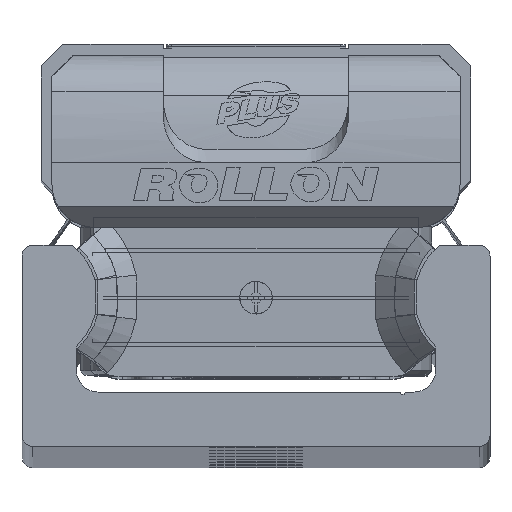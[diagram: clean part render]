
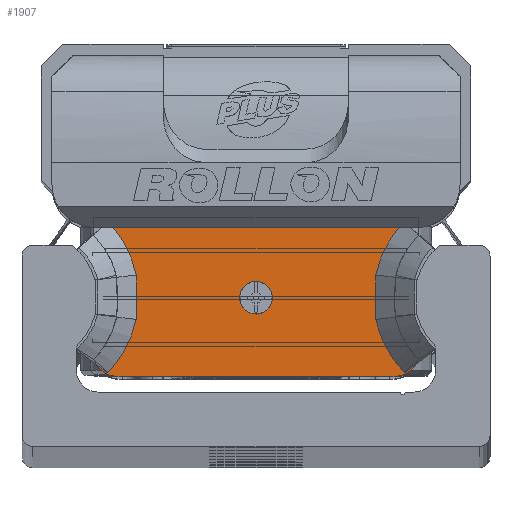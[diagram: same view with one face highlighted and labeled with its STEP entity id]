
A CAD part, top view. The second image highlights one B-rep face of the part: STEP entity #1907.
In plain terms, the highlighted planar face has unit normal (0, 0, 1) as drawn and (0, 0, -1) by its records, which use the part's own axes.
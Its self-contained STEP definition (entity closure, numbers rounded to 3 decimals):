
#1907 = ADVANCED_FACE( '', ( #4002, #4003 ), #4004, .F. );
#4002 = FACE_BOUND( '', #6351, .T. );
#4003 = FACE_OUTER_BOUND( '', #6352, .T. );
#4004 = PLANE( '', #6353 );
#6351 = EDGE_LOOP( '', ( #11493 ) );
#6352 = EDGE_LOOP( '', ( #11494, #11495, #11496, #11497, #11498, #11499, #11500, #11501, #11502, #11503, #11504, #11505 ) );
#6353 = AXIS2_PLACEMENT_3D( '', #11506, #11507, #11508 );
#11493 = ORIENTED_EDGE( '', *, *, #12699, .T. );
#11494 = ORIENTED_EDGE( '', *, *, #14443, .T. );
#11495 = ORIENTED_EDGE( '', *, *, #13220, .F. );
#11496 = ORIENTED_EDGE( '', *, *, #14617, .T. );
#11497 = ORIENTED_EDGE( '', *, *, #12694, .F. );
#11498 = ORIENTED_EDGE( '', *, *, #14334, .T. );
#11499 = ORIENTED_EDGE( '', *, *, #13501, .T. );
#11500 = ORIENTED_EDGE( '', *, *, #14018, .T. );
#11501 = ORIENTED_EDGE( '', *, *, #14618, .T. );
#11502 = ORIENTED_EDGE( '', *, *, #14474, .T. );
#11503 = ORIENTED_EDGE( '', *, *, #13711, .T. );
#11504 = ORIENTED_EDGE( '', *, *, #14619, .T. );
#11505 = ORIENTED_EDGE( '', *, *, #14435, .T. );
#11506 = CARTESIAN_POINT( '', ( 14.9, 7.35, -13.25 ) );
#11507 = DIRECTION( '', ( 0., 0., 1. ) );
#11508 = DIRECTION( '', ( 1., 0., 0. ) );
#12694 = EDGE_CURVE( '', #15051, #15052, #15053, .T. );
#12699 = EDGE_CURVE( '', #15060, #15060, #15061, .T. );
#13220 = EDGE_CURVE( '', #15952, #15133, #15954, .T. );
#13501 = EDGE_CURVE( '', #16400, #16398, #16401, .T. );
#13711 = EDGE_CURVE( '', #16710, #16716, #16718, .T. );
#14018 = EDGE_CURVE( '', #16398, #17169, #17171, .T. );
#14334 = EDGE_CURVE( '', #15051, #16400, #17587, .T. );
#14435 = EDGE_CURVE( '', #17721, #17719, #17722, .T. );
#14443 = EDGE_CURVE( '', #17719, #15133, #17731, .T. );
#14474 = EDGE_CURVE( '', #17770, #16710, #17771, .T. );
#14617 = EDGE_CURVE( '', #15952, #15052, #17940, .T. );
#14618 = EDGE_CURVE( '', #17169, #17770, #17941, .T. );
#14619 = EDGE_CURVE( '', #16716, #17721, #17942, .T. );
#15051 = VERTEX_POINT( '', #18493 );
#15052 = VERTEX_POINT( '', #18494 );
#15053 = CIRCLE( '', #18495, 2.5 );
#15060 = VERTEX_POINT( '', #18504 );
#15061 = CIRCLE( '', #18505, 1.5 );
#15133 = VERTEX_POINT( '', #18596 );
#15952 = VERTEX_POINT( '', #19795 );
#15954 = CIRCLE( '', #19798, 2.5 );
#16398 = VERTEX_POINT( '', #20428 );
#16400 = VERTEX_POINT( '', #20431 );
#16401 = B_SPLINE_CURVE_WITH_KNOTS( '', 2, ( #20432, #20433, #20434, #20435, #20436 ), .UNSPECIFIED., .F., .F., ( 3, 2, 3 ), ( 0., 0.5, 1. ), .UNSPECIFIED. );
#16710 = VERTEX_POINT( '', #20832 );
#16716 = VERTEX_POINT( '', #20845 );
#16718 = B_SPLINE_CURVE_WITH_KNOTS( '', 2, ( #20848, #20849, #20850, #20851, #20852 ), .UNSPECIFIED., .F., .F., ( 3, 2, 3 ), ( 0.133, 0.5, 1. ), .UNSPECIFIED. );
#17169 = VERTEX_POINT( '', #21465 );
#17171 = B_SPLINE_CURVE_WITH_KNOTS( '', 2, ( #21468, #21469, #21470 ), .UNSPECIFIED., .F., .F., ( 3, 3 ), ( 0., 1. ), .UNSPECIFIED. );
#17587 = B_SPLINE_CURVE_WITH_KNOTS( '', 1, ( #22075, #22076 ), .UNSPECIFIED., .F., .F., ( 2, 2 ), ( 0., 1. ), .UNSPECIFIED. );
#17719 = VERTEX_POINT( '', #22254 );
#17721 = VERTEX_POINT( '', #22257 );
#17722 = B_SPLINE_CURVE_WITH_KNOTS( '', 2, ( #22258, #22259, #22260, #22261, #22262 ), .UNSPECIFIED., .F., .F., ( 3, 2, 3 ), ( 0., 0.5, 1. ), .UNSPECIFIED. );
#17731 = B_SPLINE_CURVE_WITH_KNOTS( '', 1, ( #22276, #22277 ), .UNSPECIFIED., .F., .F., ( 2, 2 ), ( 0., 1. ), .UNSPECIFIED. );
#17770 = VERTEX_POINT( '', #22334 );
#17771 = LINE( '', #22335, #22336 );
#17940 = LINE( '', #22599, #22600 );
#17941 = B_SPLINE_CURVE_WITH_KNOTS( '', 2, ( #22601, #22602, #22603, #22604, #22605 ), .UNSPECIFIED., .F., .F., ( 3, 2, 3 ), ( 0., 0.5, 0.868 ), .UNSPECIFIED. );
#17942 = B_SPLINE_CURVE_WITH_KNOTS( '', 2, ( #22606, #22607, #22608 ), .UNSPECIFIED., .F., .F., ( 3, 3 ), ( 0., 1. ), .UNSPECIFIED. );
#18493 = CARTESIAN_POINT( '', ( -14.904, -5.718, -13.25 ) );
#18494 = CARTESIAN_POINT( '', ( -12.58, -7.3, -13.25 ) );
#18495 = AXIS2_PLACEMENT_3D( '', #23011, #23012, #23013 );
#18504 = CARTESIAN_POINT( '', ( 1.5, -0.05, -13.25 ) );
#18505 = AXIS2_PLACEMENT_3D( '', #23019, #23020, #23021 );
#18596 = CARTESIAN_POINT( '', ( 14.906, -5.717, -13.25 ) );
#19795 = CARTESIAN_POINT( '', ( 12.58, -7.3, -13.25 ) );
#19798 = AXIS2_PLACEMENT_3D( '', #23735, #23736, #23737 );
#20428 = CARTESIAN_POINT( '', ( -11.012, -2.045, -13.25 ) );
#20431 = CARTESIAN_POINT( '', ( -13.628, -6.965, -13.25 ) );
#20432 = CARTESIAN_POINT( '', ( -13.628, -6.965, -13.25 ) );
#20433 = CARTESIAN_POINT( '', ( -12.638, -5.946, -13.25 ) );
#20434 = CARTESIAN_POINT( '', ( -11.97, -4.691, -13.25 ) );
#20435 = CARTESIAN_POINT( '', ( -11.303, -3.437, -13.25 ) );
#20436 = CARTESIAN_POINT( '', ( -11.012, -2.045, -13.25 ) );
#20832 = CARTESIAN_POINT( '', ( 13.12, 6.4, -13.25 ) );
#20845 = CARTESIAN_POINT( '', ( 11.012, 2.045, -13.25 ) );
#20848 = CARTESIAN_POINT( '', ( 13.119, 6.4, -13.25 ) );
#20849 = CARTESIAN_POINT( '', ( 12.459, 5.608, -13.25 ) );
#20850 = CARTESIAN_POINT( '', ( 11.968, 4.684, -13.25 ) );
#20851 = CARTESIAN_POINT( '', ( 11.301, 3.427, -13.25 ) );
#20852 = CARTESIAN_POINT( '', ( 11.012, 2.045, -13.25 ) );
#21465 = CARTESIAN_POINT( '', ( -11.012, 2.045, -13.25 ) );
#21468 = CARTESIAN_POINT( '', ( -11.012, -2.045, -13.25 ) );
#21469 = CARTESIAN_POINT( '', ( -10.888, 0., -13.25 ) );
#21470 = CARTESIAN_POINT( '', ( -11.012, 2.045, -13.25 ) );
#22075 = CARTESIAN_POINT( '', ( -14.915, -5.713, -13.25 ) );
#22076 = CARTESIAN_POINT( '', ( -13.628, -6.965, -13.25 ) );
#22254 = CARTESIAN_POINT( '', ( 13.628, -6.965, -13.25 ) );
#22257 = CARTESIAN_POINT( '', ( 11.012, -2.045, -13.25 ) );
#22258 = CARTESIAN_POINT( '', ( 11.012, -2.045, -13.25 ) );
#22259 = CARTESIAN_POINT( '', ( 11.301, -3.43, -13.25 ) );
#22260 = CARTESIAN_POINT( '', ( 11.972, -4.69, -13.25 ) );
#22261 = CARTESIAN_POINT( '', ( 12.642, -5.95, -13.25 ) );
#22262 = CARTESIAN_POINT( '', ( 13.628, -6.965, -13.25 ) );
#22276 = CARTESIAN_POINT( '', ( 13.628, -6.965, -13.25 ) );
#22277 = CARTESIAN_POINT( '', ( 14.9, -5.728, -13.25 ) );
#22334 = CARTESIAN_POINT( '', ( -13.119, 6.4, -13.25 ) );
#22335 = CARTESIAN_POINT( '', ( 14.9, 6.4, -13.25 ) );
#22336 = VECTOR( '', #25294, 1000. );
#22599 = CARTESIAN_POINT( '', ( 12.58, -7.3, -13.25 ) );
#22600 = VECTOR( '', #25445, 1000. );
#22601 = CARTESIAN_POINT( '', ( -11.012, 2.045, -13.25 ) );
#22602 = CARTESIAN_POINT( '', ( -11.302, 3.432, -13.25 ) );
#22603 = CARTESIAN_POINT( '', ( -11.967, 4.685, -13.25 ) );
#22604 = CARTESIAN_POINT( '', ( -12.456, 5.606, -13.25 ) );
#22605 = CARTESIAN_POINT( '', ( -13.119, 6.4, -13.25 ) );
#22606 = CARTESIAN_POINT( '', ( 11.012, 2.045, -13.25 ) );
#22607 = CARTESIAN_POINT( '', ( 10.888, 0., -13.25 ) );
#22608 = CARTESIAN_POINT( '', ( 11.012, -2.045, -13.25 ) );
#23011 = CARTESIAN_POINT( '', ( -12.58, -4.8, -13.25 ) );
#23012 = DIRECTION( '', ( 0., 0., 1. ) );
#23013 = DIRECTION( '', ( 1., 0., 0. ) );
#23019 = CARTESIAN_POINT( '', ( 0., -0.05, -13.25 ) );
#23020 = DIRECTION( '', ( 0., 0., 1. ) );
#23021 = DIRECTION( '', ( 1., 0., 0. ) );
#23735 = CARTESIAN_POINT( '', ( 12.58, -4.8, -13.25 ) );
#23736 = DIRECTION( '', ( 0., 0., 1. ) );
#23737 = DIRECTION( '', ( 1., 0., 0. ) );
#25294 = DIRECTION( '', ( 1., 0., 0. ) );
#25445 = DIRECTION( '', ( -1., 0., 0. ) );
